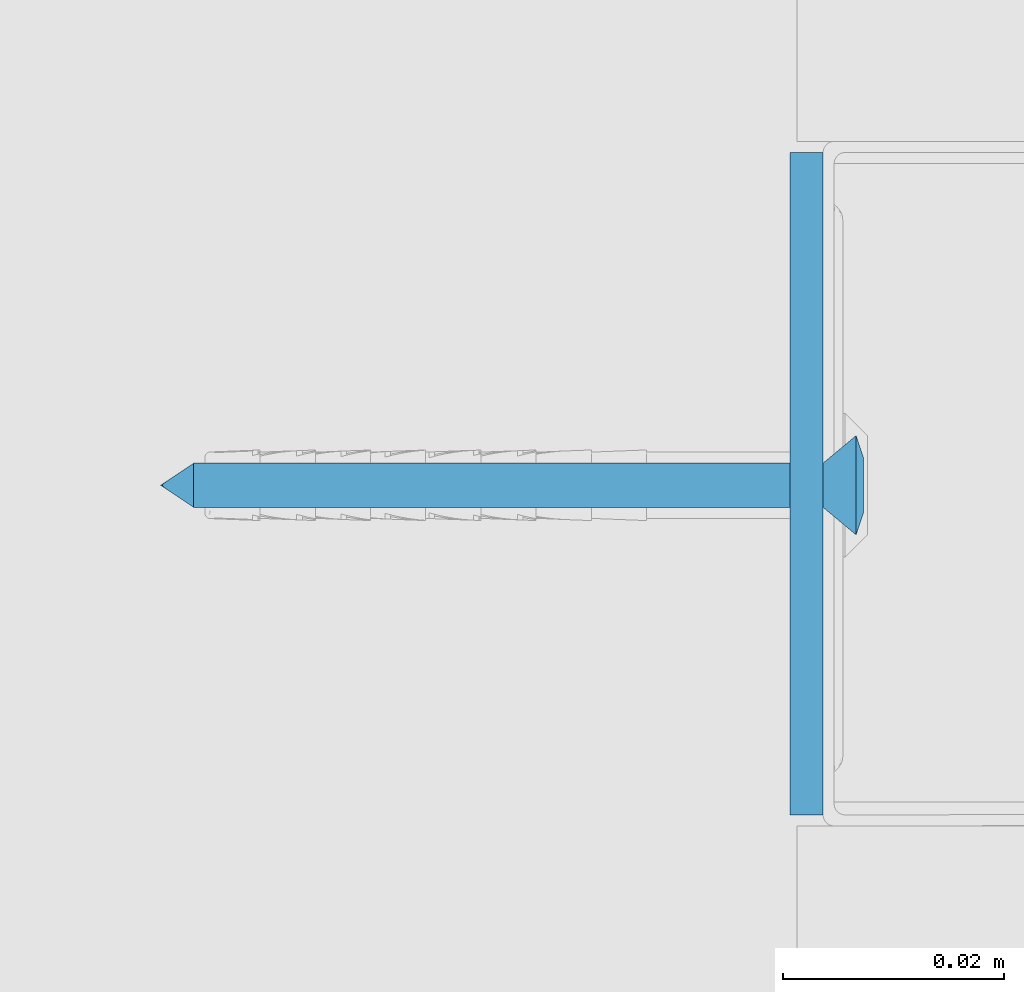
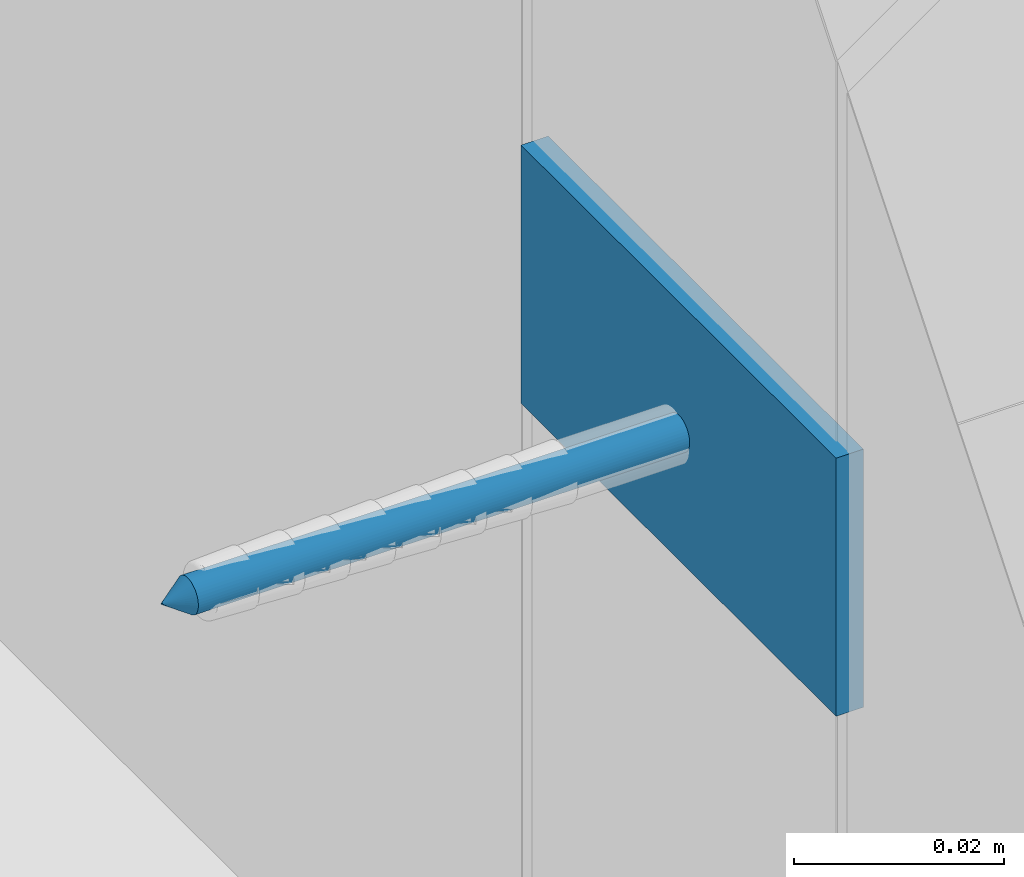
# One storey, part 34 of 67: 2 walls.
"""IFC2X3 building model written with IfcOpenShell, lengths in millimetres."""

from ifc_helpers import new_model, si_unit, frame, origin_with_axes, place, context, subcontext, project, spatial, faceted_brep, material, type_object, element, save


model = new_model("IFC2X3")

# Units and contexts
model_context = context("Model", 3, world=origin_with_axes())
body_context = subcontext(model_context, "Body", "Model", "MODEL_VIEW")
ifc_project = project(units=[si_unit("LENGTHUNIT", "METRE", prefix="MILLI"), si_unit("AREAUNIT", "SQUARE_METRE"), si_unit("VOLUMEUNIT", "CUBIC_METRE")], contexts=[model_context])

# Site, building, storey
site_placement = place(None, frame((2152.14102611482, 674.9749105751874, 57.61556563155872), z_axis=(0.0, 0.0, 1.0), x_axis=(-1.1102230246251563e-16, 1.0, 0.0)))
site = spatial("IfcSite", under=ifc_project, at=site_placement, Name="Default Site", CompositionType="ELEMENT")
building_placement = place(site_placement, origin_with_axes())
building = spatial("IfcBuilding", under=site, at=building_placement, Name="Default Building", CompositionType="ELEMENT")
storey_placement = place(building_placement, origin_with_axes())
storey = spatial("IfcBuildingStorey", under=building, at=storey_placement, Name="Default Building Storey", CompositionType="ELEMENT", Elevation=57.61556563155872)

# Walls
ifc_material = material(Name="Default")
wall_type_1 = type_object("IfcWallType", Name="Kołek rozporowy min. fi 6#35", PredefinedType="NOTDEFINED")
wall_1_placement = place(storey_placement, frame((6291.176283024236, 2016.3286110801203, 1539.671890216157), z_axis=(-6.858158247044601e-13, -1.0, 7.64238051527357e-14), x_axis=(-1.6476028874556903e-11, 7.642380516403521e-14, 1.0)))
element("IfcWall", 1, at=wall_1_placement, inside=storey, type_object=wall_type_1, material=ifc_material, Name="Kołek rozporowy min. fi 6", context=body_context, shape_type="Brep", body=[
    faceted_brep([(-1438.3141994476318, 3453.2833099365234, -0.46425670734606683), (-1435.8141422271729, 3453.2833099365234, -3.464256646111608), (-1435.7895851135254, 3452.970266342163, -3.464256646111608), (-1438.2587671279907, 3452.579259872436, -0.46425670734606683), (-1435.7162714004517, 3452.6650905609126, -3.464256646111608), (-1438.093900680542, 3451.892614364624, -0.46425670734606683), (-1435.5961084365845, 3452.3751735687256, -3.464256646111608), (-1437.8236532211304, 3451.240301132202, -0.46425670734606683), (-1435.4321956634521, 3452.107667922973, -3.464256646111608), (-1437.4547004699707, 3450.6382942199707, -0.46425670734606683), (-1435.22834777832, 3451.8690109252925, -3.464256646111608), (-1436.9961023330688, 3450.101137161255, -0.46425670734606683), (-1434.9896907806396, 3451.665163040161, -3.464256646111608), (-1436.4591836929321, 3449.642658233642, -0.46425670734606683), (-1434.7221851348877, 3451.501131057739, -3.464256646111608), (-1435.8570575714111, 3449.2735862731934, -0.46425670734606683), (-1434.4321489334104, 3451.381206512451, -3.464256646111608), (-1435.2047443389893, 3449.0034580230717, -0.46425670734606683), (-1434.1269731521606, 3451.307773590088, -3.464256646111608), (-1434.5180988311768, 3448.838710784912, -0.46425670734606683), (-1433.8141679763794, 3451.28321647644, -3.464256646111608), (-1433.8141679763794, 3448.7831592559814, -0.46425670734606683), (-1433.5012435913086, 3451.307773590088, -3.464256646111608), (-1433.110237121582, 3448.838710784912, -0.46425670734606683), (-1433.1960678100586, 3451.381206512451, -3.464256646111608), (-1432.4235916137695, 3449.0034580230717, -0.46425670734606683), (-1432.9061508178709, 3451.501131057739, -3.464256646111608), (-1431.771159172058, 3449.2735862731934, -0.46425670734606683), (-1432.6385259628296, 3451.665163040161, -3.464256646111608), (-1431.1691522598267, 3449.642658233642, -0.46425670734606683), (-1432.3999881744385, 3451.8690109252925, -3.464256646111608), (-1430.6321144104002, 3450.101137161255, -0.46425670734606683), (-1432.1961402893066, 3452.107667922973, -3.464256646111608), (-1430.1735162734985, 3450.6382942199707, -0.46425670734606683), (-1432.0321083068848, 3452.3751735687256, -3.464256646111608), (-1429.8045635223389, 3451.240301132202, -0.46425670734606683), (-1431.9120645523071, 3452.6650905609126, -3.464256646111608), (-1429.5344352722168, 3451.892614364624, -0.46425670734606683), (-1431.8387508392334, 3453.5961151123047, -3.464256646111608), (-1429.369568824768, 3453.9871215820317, -0.46425670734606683), (-1429.314136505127, 3453.2833099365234, -0.46425670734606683), (-1431.814193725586, 3453.2833099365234, -3.464256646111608), (-1429.369568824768, 3452.579259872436, -0.46425670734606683), (-1431.8387508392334, 3452.970266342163, -3.464256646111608), (-1431.9120645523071, 3453.9012908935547, -3.464256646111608), (-1429.5344352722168, 3454.6737670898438, -0.46425670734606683), (-1432.0321083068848, 3454.191207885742, -3.464256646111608), (-1429.8045635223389, 3455.3260803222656, -0.46425670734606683), (-1432.1961402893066, 3454.458713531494, -3.464256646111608), (-1430.1735162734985, 3455.9283256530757, -0.46425670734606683), (-1432.3999881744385, 3454.6973705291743, -3.464256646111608), (-1430.6321144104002, 3456.465244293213, -0.46425670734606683), (-1432.6385259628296, 3454.9012184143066, -3.464256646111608), (-1431.1691522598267, 3456.923723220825, -0.46425670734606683), (-1432.9061508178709, 3455.065250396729, -3.464256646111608), (-1431.771159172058, 3457.2927951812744, -0.46425670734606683), (-1433.1960678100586, 3455.1854133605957, -3.464256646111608), (-1432.4235916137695, 3457.562923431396, -0.46425670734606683), (-1433.5012435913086, 3455.25860786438, -3.464256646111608), (-1433.110237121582, 3457.7279090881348, -0.46425670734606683), (-1433.8141679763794, 3455.283164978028, -3.464256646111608), (-1433.8141679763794, 3457.7832221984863, -0.46425670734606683), (-1434.3430995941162, 3457.7519893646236, -0.46425670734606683), (-1434.1269731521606, 3455.25860786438, -3.464256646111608), (-1434.4321489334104, 3455.1854133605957, -3.464256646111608), (-1434.8646402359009, 3457.6590061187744, -0.46425670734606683), (-1435.3716373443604, 3457.504987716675, -0.46425670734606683), (-1434.7221851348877, 3455.065250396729, -3.464256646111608), (-1435.8570575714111, 3457.2927951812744, -0.46425670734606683), (-1434.9896907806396, 3454.9012184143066, -3.464256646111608), (-1435.22834777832, 3454.6973705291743, -3.464256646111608), (-1436.3142251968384, 3457.024812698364, -0.46425670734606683), (-1436.7367029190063, 3456.705093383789, -0.46425670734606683), (-1437.118649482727, 3456.337928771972, -0.46425670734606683), (-1437.4547004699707, 3455.9283256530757, -0.46425670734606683), (-1435.4321956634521, 3454.458713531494, -3.464256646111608), (-1435.5961084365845, 3454.191207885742, -3.464256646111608), (-1437.8236532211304, 3455.3260803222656, -0.46425670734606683), (-1435.7162714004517, 3453.9012908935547, -3.464256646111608), (-1438.093900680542, 3454.6737670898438, -0.46425670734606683), (-1435.7895851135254, 3453.5961151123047, -3.464256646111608), (-1438.2587671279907, 3453.9871215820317, -0.46425670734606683), (-1434.2052936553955, 3455.752372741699, 0.20073754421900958), (-1433.8141679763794, 3455.7831287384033, 0.20073754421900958), (-1434.5866441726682, 3455.6608200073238, 0.20073754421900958), (-1434.9491596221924, 3455.510854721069, 0.20073754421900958), (-1435.2836608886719, 3455.305814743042, 0.20073754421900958), (-1435.581922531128, 3455.0509452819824, 0.20073754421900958), (-1435.836672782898, 3454.7526836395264, 0.20073754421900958), (-1436.0417127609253, 3454.418182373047, 0.20073754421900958), (-1436.1917972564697, 3454.0557861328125, 0.20073754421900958), (-1436.2833499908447, 3453.6743164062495, 0.20073754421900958), (-1436.3141059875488, 3453.2833099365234, 0.20073754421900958), (-1436.2833499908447, 3452.8920650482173, 0.20073754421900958), (-1436.1917972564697, 3452.5105953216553, 0.20073754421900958), (-1436.0417127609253, 3452.148199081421, 0.20073754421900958), (-1435.836672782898, 3451.8136978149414, 0.20073754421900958), (-1435.581922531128, 3451.5154361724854, 0.20073754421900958), (-1435.2836608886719, 3451.260566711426, 0.20073754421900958), (-1434.9491596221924, 3451.0557651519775, 0.20073754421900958), (-1434.5866441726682, 3450.905561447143, 0.20073754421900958), (-1433.4230422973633, 3450.8140087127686, 0.20073754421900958), (-1433.8141679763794, 3450.7832527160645, 0.20073754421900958), (-1434.2052936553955, 3450.8140087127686, 0.20073754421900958), (-1433.0415725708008, 3450.905561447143, 0.20073754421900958), (-1432.6791763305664, 3451.0557651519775, 0.20073754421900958), (-1432.344675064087, 3451.260566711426, 0.20073754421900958), (-1432.0464134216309, 3451.5154361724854, 0.20073754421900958), (-1431.7916631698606, 3451.8136978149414, 0.20073754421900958), (-1431.5866231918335, 3452.148199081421, 0.20073754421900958), (-1431.436538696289, 3452.5105953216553, 0.20073754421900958), (-1431.344985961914, 3452.8920650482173, 0.20073754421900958), (-1431.3141107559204, 3453.2833099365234, 0.20073754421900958), (-1431.344985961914, 3453.6743164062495, 0.20073754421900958), (-1431.436538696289, 3454.0557861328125, 0.20073754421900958), (-1431.5866231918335, 3454.418182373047, 0.20073754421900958), (-1431.7916631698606, 3454.7526836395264, 0.20073754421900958), (-1432.0464134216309, 3455.0509452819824, 0.20073754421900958), (-1432.344675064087, 3455.305814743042, 0.20073754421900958), (-1432.6791763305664, 3455.510854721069, 0.20073754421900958), (-1433.0415725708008, 3455.6608200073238, 0.20073754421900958), (-1433.4230422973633, 3455.752372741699, 0.20073754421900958), (-1433.8141679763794, 3453.2833099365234, -63.46425414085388), (-1435.7895851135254, 3452.970266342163, -60.464255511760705), (-1435.8141422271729, 3453.2833099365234, -60.464255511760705), (-1435.7162714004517, 3452.6650905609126, -60.464255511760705), (-1435.5961084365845, 3452.3751735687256, -60.464255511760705), (-1435.4321956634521, 3452.107667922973, -60.464255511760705), (-1435.22834777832, 3451.8690109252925, -60.464255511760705), (-1434.9896907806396, 3451.665163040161, -60.464255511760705), (-1434.7221851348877, 3451.501131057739, -60.464255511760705), (-1434.4321489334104, 3451.381206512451, -60.464255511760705), (-1434.1269731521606, 3451.307773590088, -60.464255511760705), (-1433.8141679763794, 3451.28321647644, -60.464255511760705), (-1433.5012435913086, 3451.307773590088, -60.464255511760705), (-1433.1960678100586, 3451.381206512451, -60.464255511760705), (-1432.9061508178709, 3451.501131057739, -60.464255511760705), (-1432.6385259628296, 3451.665163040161, -60.464255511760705), (-1432.3999881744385, 3451.8690109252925, -60.464255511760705), (-1432.1961402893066, 3452.107667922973, -60.464255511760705), (-1432.0321083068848, 3452.3751735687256, -60.464255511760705), (-1431.9120645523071, 3452.6650905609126, -60.464255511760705), (-1431.8387508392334, 3452.970266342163, -60.464255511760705), (-1431.814193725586, 3453.2833099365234, -60.464255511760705), (-1431.8387508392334, 3453.5961151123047, -60.464255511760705), (-1431.9120645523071, 3453.9012908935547, -60.464255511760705), (-1432.0321083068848, 3454.191207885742, -60.464255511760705), (-1432.1961402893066, 3454.458713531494, -60.464255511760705), (-1432.3999881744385, 3454.6973705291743, -60.464255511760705), (-1432.6385259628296, 3454.9012184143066, -60.464255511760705), (-1432.9061508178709, 3455.065250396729, -60.464255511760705), (-1433.1960678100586, 3455.1854133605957, -60.464255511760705), (-1433.5012435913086, 3455.25860786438, -60.464255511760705), (-1433.8141679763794, 3455.283164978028, -60.464255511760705), (-1434.1269731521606, 3455.25860786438, -60.464255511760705), (-1434.4321489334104, 3455.1854133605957, -60.464255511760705), (-1434.7221851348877, 3455.065250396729, -60.464255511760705), (-1434.9896907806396, 3454.9012184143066, -60.464255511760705), (-1435.22834777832, 3454.6973705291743, -60.464255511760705), (-1435.4321956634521, 3454.458713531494, -60.464255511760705), (-1435.5961084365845, 3454.191207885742, -60.464255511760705), (-1435.7162714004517, 3453.9012908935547, -60.464255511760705), (-1435.7895851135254, 3453.5961151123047, -60.464255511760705), (-1436.0417127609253, 3454.418182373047, 0.049999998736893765), (-1436.1917972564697, 3454.0557861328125, 0.049999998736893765), (-1436.2833499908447, 3453.6743164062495, 0.049999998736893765), (-1436.3141059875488, 3453.2833099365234, 0.049999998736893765), (-1436.2833499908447, 3452.8920650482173, 0.049999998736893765), (-1436.1917972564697, 3452.5105953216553, 0.049999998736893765), (-1436.0417127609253, 3452.148199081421, 0.049999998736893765), (-1435.836672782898, 3451.8136978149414, 0.049999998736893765), (-1435.581922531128, 3451.5154361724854, 0.049999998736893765), (-1435.2836608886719, 3451.260566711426, 0.049999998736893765), (-1434.9491596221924, 3451.0557651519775, 0.049999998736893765), (-1434.5866441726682, 3450.905561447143, 0.049999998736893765), (-1434.2052936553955, 3450.8140087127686, 0.049999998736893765), (-1433.8141679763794, 3450.7832527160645, 0.049999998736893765), (-1433.4230422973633, 3450.8140087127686, 0.049999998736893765), (-1433.0415725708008, 3450.905561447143, 0.049999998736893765), (-1432.6791763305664, 3451.0557651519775, 0.049999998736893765), (-1432.344675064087, 3451.260566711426, 0.049999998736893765), (-1432.0464134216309, 3451.5154361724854, 0.049999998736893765), (-1431.7916631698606, 3451.8136978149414, 0.049999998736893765), (-1431.5866231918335, 3452.148199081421, 0.049999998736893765), (-1431.436538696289, 3452.5105953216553, 0.049999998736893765), (-1431.344985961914, 3452.8920650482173, 0.049999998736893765), (-1431.3141107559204, 3453.2833099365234, 0.049999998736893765), (-1431.344985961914, 3453.6743164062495, 0.049999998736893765), (-1431.436538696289, 3454.0557861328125, 0.049999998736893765), (-1431.5866231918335, 3454.418182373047, 0.049999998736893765), (-1431.7916631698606, 3454.7526836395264, 0.049999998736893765), (-1432.0464134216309, 3455.0509452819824, 0.049999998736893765), (-1432.344675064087, 3455.305814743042, 0.049999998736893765), (-1432.6791763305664, 3455.510854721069, 0.049999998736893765), (-1433.0415725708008, 3455.6608200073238, 0.049999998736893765), (-1433.4230422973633, 3455.752372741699, 0.049999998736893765), (-1433.8141679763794, 3455.7831287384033, 0.049999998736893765), (-1434.2052936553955, 3455.752372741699, 0.049999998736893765), (-1434.5866441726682, 3455.6608200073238, 0.049999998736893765), (-1434.9491596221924, 3455.510854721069, 0.049999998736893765), (-1435.2836608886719, 3455.305814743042, 0.049999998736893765), (-1435.581922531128, 3455.0509452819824, 0.049999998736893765), (-1435.836672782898, 3454.7526836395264, 0.049999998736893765), (-1434.3141317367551, 3452.7831077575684, 0.049999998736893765), (-1435.8141422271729, 3452.7831077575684, 0.049999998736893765), (-1435.8141422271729, 3453.7832736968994, 0.049999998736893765), (-1434.3141317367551, 3453.7832736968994, 0.049999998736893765), (-1434.3141317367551, 3455.283164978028, 0.049999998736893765), (-1433.3142042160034, 3455.283164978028, 0.049999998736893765), (-1433.3142042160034, 3453.7832736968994, 0.049999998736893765), (-1431.814193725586, 3453.7832736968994, 0.049999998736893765), (-1431.814193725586, 3452.7831077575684, 0.049999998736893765), (-1433.3142042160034, 3452.7831077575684, 0.049999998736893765), (-1433.3142042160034, 3451.28321647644, 0.049999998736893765), (-1434.3141317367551, 3451.28321647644, 0.049999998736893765), (-1434.3141317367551, 3452.7831077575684, -1.799262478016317), (-1434.3141317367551, 3451.28321647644, -1.799262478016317), (-1433.3142042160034, 3451.28321647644, -1.799262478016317), (-1433.3142042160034, 3452.7831077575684, -1.799262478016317), (-1431.814193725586, 3452.7831077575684, -1.799262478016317), (-1431.814193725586, 3453.7832736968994, -1.799262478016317), (-1433.3142042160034, 3453.7832736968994, -1.799262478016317), (-1433.3142042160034, 3455.283164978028, -1.799262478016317), (-1434.3141317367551, 3455.283164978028, -1.799262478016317), (-1434.3141317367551, 3453.7832736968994, -1.799262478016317), (-1435.8141422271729, 3453.7832736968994, -1.799262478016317), (-1435.8141422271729, 3452.7831077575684, -1.799262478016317)], [[[0, 1, 2, 3]], [[4, 5, 3, 2]], [[6, 7, 5, 4]], [[7, 6, 8, 9]], [[10, 11, 9, 8]], [[11, 10, 12, 13]], [[14, 15, 13, 12]], [[16, 17, 15, 14]], [[17, 16, 18, 19]], [[20, 21, 19, 18]], [[21, 20, 22, 23]], [[24, 25, 23, 22]], [[26, 27, 25, 24]], [[27, 26, 28, 29]], [[30, 31, 29, 28]], [[31, 30, 32, 33]], [[34, 35, 33, 32]], [[36, 37, 35, 34]], [[38, 39, 40, 41]], [[41, 40, 42, 43]], [[37, 36, 43, 42]], [[44, 45, 39, 38]], [[46, 47, 45, 44]], [[47, 46, 48, 49]], [[50, 51, 49, 48]], [[51, 50, 52, 53]], [[54, 55, 53, 52]], [[56, 57, 55, 54]], [[57, 56, 58, 59]], [[60, 61, 59, 58]], [[62, 61, 63]], [[61, 60, 63]], [[63, 64, 62]], [[64, 65, 62]], [[66, 65, 64]], [[64, 67, 66]], [[67, 68, 66]], [[69, 70, 71]], [[70, 72, 71]], [[71, 68, 69]], [[68, 67, 69]], [[70, 73, 72]], [[74, 73, 75]], [[73, 70, 75]], [[76, 77, 74, 75]], [[78, 79, 77, 76]], [[79, 78, 80, 81]], [[1, 0, 81, 80]], [[82, 83, 62]], [[83, 61, 62]], [[62, 65, 82]], [[65, 84, 82]], [[66, 68, 84]], [[68, 85, 84]], [[84, 65, 66]], [[86, 85, 71]], [[85, 68, 71]], [[72, 73, 87]], [[87, 86, 72]], [[86, 71, 72]], [[88, 87, 74]], [[87, 73, 74]], [[77, 89, 88, 74]], [[79, 90, 89, 77]], [[90, 79, 81, 91]], [[0, 92, 91, 81]], [[92, 0, 3, 93]], [[5, 94, 93, 3]], [[7, 95, 94, 5]], [[95, 7, 9, 96]], [[11, 97, 96, 9]], [[97, 11, 13, 98]], [[15, 99, 98, 13]], [[17, 100, 99, 15]], [[23, 101, 102, 21]], [[21, 102, 103, 19]], [[100, 17, 19, 103]], [[25, 104, 101, 23]], [[27, 105, 104, 25]], [[105, 27, 29, 106]], [[31, 107, 106, 29]], [[107, 31, 33, 108]], [[35, 109, 108, 33]], [[37, 110, 109, 35]], [[110, 37, 42, 111]], [[40, 112, 111, 42]], [[112, 40, 39, 113]], [[45, 114, 113, 39]], [[47, 115, 114, 45]], [[115, 47, 49, 116]], [[51, 117, 116, 49]], [[117, 51, 53, 118]], [[55, 119, 118, 53]], [[57, 120, 119, 55]], [[120, 57, 59, 121]], [[61, 83, 121, 59]], [[122, 123, 124]], [[122, 125, 123]], [[122, 126, 125]], [[127, 126, 122]], [[122, 128, 127]], [[129, 128, 122]], [[122, 130, 129]], [[122, 131, 130]], [[132, 131, 122]], [[122, 133, 132]], [[134, 133, 122]], [[122, 135, 134]], [[122, 136, 135]], [[137, 136, 122]], [[122, 138, 137]], [[139, 138, 122]], [[122, 140, 139]], [[122, 141, 140]], [[142, 141, 122]], [[122, 143, 142]], [[144, 143, 122]], [[122, 145, 144]], [[122, 146, 145]], [[147, 146, 122]], [[122, 148, 147]], [[149, 148, 122]], [[122, 150, 149]], [[122, 151, 150]], [[152, 151, 122]], [[122, 153, 152]], [[154, 153, 122]], [[122, 155, 154]], [[122, 156, 155]], [[157, 156, 122]], [[122, 158, 157]], [[159, 158, 122]], [[122, 160, 159]], [[122, 161, 160]], [[162, 161, 122]], [[124, 162, 122]], [[1, 124, 123, 2]], [[125, 4, 2, 123]], [[126, 6, 4, 125]], [[6, 126, 127, 8]], [[128, 10, 8, 127]], [[10, 128, 129, 12]], [[130, 14, 12, 129]], [[131, 16, 14, 130]], [[16, 131, 132, 18]], [[133, 20, 18, 132]], [[20, 133, 134, 22]], [[135, 24, 22, 134]], [[136, 26, 24, 135]], [[26, 136, 137, 28]], [[138, 30, 28, 137]], [[30, 138, 139, 32]], [[140, 34, 32, 139]], [[141, 36, 34, 140]], [[144, 38, 41, 143]], [[143, 41, 43, 142]], [[36, 141, 142, 43]], [[145, 44, 38, 144]], [[146, 46, 44, 145]], [[46, 146, 147, 48]], [[148, 50, 48, 147]], [[50, 148, 149, 52]], [[150, 54, 52, 149]], [[151, 56, 54, 150]], [[56, 151, 152, 58]], [[153, 60, 58, 152]], [[60, 153, 154, 63]], [[155, 64, 63, 154]], [[156, 67, 64, 155]], [[67, 156, 157, 69]], [[158, 70, 69, 157]], [[70, 158, 159, 75]], [[160, 76, 75, 159]], [[161, 78, 76, 160]], [[78, 161, 162, 80]], [[124, 1, 80, 162]], [[163, 164, 165, 166, 167, 168, 169, 170, 171, 172, 173, 174, 175, 176, 177, 178, 179, 180, 181, 182, 183, 184, 185, 186, 187, 188, 189, 190, 191, 192, 193, 194, 195, 196, 197, 198, 199, 200, 201, 202], [203, 204, 205, 206, 207, 208, 209, 210, 211, 212, 213, 214]], [[187, 186, 112, 113]], [[113, 114, 188, 187]], [[114, 115, 189, 188]], [[190, 189, 115, 116]], [[116, 117, 191, 190]], [[192, 191, 117, 118]], [[118, 119, 193, 192]], [[119, 120, 194, 193]], [[195, 194, 120, 121]], [[121, 83, 196, 195]], [[197, 196, 83, 82]], [[82, 84, 198, 197]], [[84, 85, 199, 198]], [[200, 199, 85, 86]], [[86, 87, 201, 200]], [[202, 201, 87, 88]], [[88, 89, 163, 202]], [[89, 90, 164, 163]], [[92, 93, 167, 166]], [[91, 92, 166, 165]], [[165, 164, 90, 91]], [[93, 94, 168, 167]], [[94, 95, 169, 168]], [[170, 169, 95, 96]], [[96, 97, 171, 170]], [[172, 171, 97, 98]], [[98, 99, 173, 172]], [[99, 100, 174, 173]], [[175, 174, 100, 103]], [[103, 102, 176, 175]], [[177, 176, 102, 101]], [[101, 104, 178, 177]], [[104, 105, 179, 178]], [[180, 179, 105, 106]], [[106, 107, 181, 180]], [[182, 181, 107, 108]], [[108, 109, 183, 182]], [[109, 110, 184, 183]], [[185, 184, 110, 111]], [[111, 112, 186, 185]], [[215, 216, 217, 218, 219, 220, 221, 222, 223, 224, 225, 226]], [[216, 214, 213, 217]], [[215, 203, 214, 216]], [[226, 204, 203, 215]], [[225, 205, 204, 226]], [[224, 206, 205, 225]], [[223, 207, 206, 224]], [[222, 208, 207, 223]], [[221, 209, 208, 222]], [[220, 210, 209, 221]], [[219, 211, 210, 220]], [[218, 212, 211, 219]], [[217, 213, 212, 218]]]),
])
wall_type_2 = type_object("IfcWallType", Name="Taśma uszczelniająca piankowa RIGIPS szer.30mm#9", PredefinedType="NOTDEFINED")
wall_2_placement = place(storey_placement, frame((2808.0370864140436, 2019.778611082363, 120.9602480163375), z_axis=(0.0, 0.0, 1.0), x_axis=(1.0, 0.0, 0.0)))
element("IfcWall", 2, at=wall_2_placement, inside=storey, type_object=wall_type_2, material=ifc_material, Name="Taśma uszczelniająca piankowa RIGIPS szer.30mm", context=body_context, shape_type="Brep", body=[
    faceted_brep([(59.99999865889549, 0.0, 4.511946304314e-12), (0.0, 0.0, 0.0), (1.0828671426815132e-12, -2.2379254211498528e-11, -29.999999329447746), (59.99999865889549, -2.2379254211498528e-11, -29.999999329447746), (0.0, 3.000000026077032, 0.0), (1.0828671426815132e-12, 3.000000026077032, -29.999999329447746), (59.99999865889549, 3.000000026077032, 0.0), (59.99999865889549, 3.000000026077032, -29.999999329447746)], [[[0, 1, 2, 3]], [[1, 4, 5, 2]], [[4, 6, 7, 5]], [[6, 0, 3, 7]], [[7, 3, 2, 5]], [[0, 6, 4, 1]]]),
])

save(model, "model.ifc")
